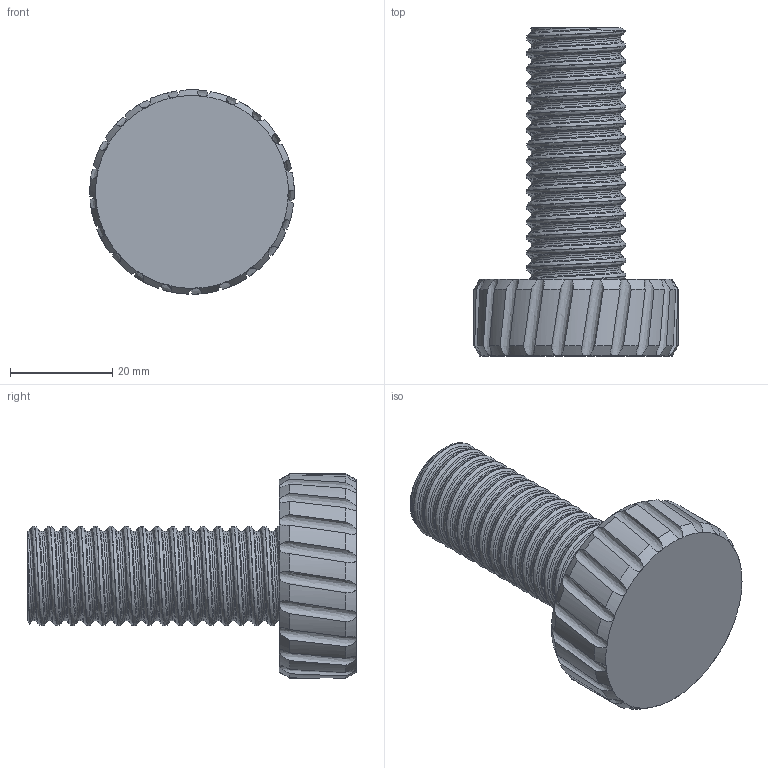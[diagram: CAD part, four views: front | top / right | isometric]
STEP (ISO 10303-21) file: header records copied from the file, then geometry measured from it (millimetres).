
FILE_DESCRIPTION(/* description */ ('Enter Title Here'),/* implementation_level */ '2;1');
FILE_NAME(/* name */ 'Hobby_HeadphoneHolder_Screw_Long.stp',/* time_stamp */ '2025-01-28T11:58:52Z',/* author */ ('kwzf494'),/* organization */ ('AstraZeneca'),/* preprocessor_version */ 'ST-DEVELOPER v20',/* originating_system */ 'Autodesk Inventor 2025',/* authorisation */ 'Bryan Windus-Smith');
FILE_SCHEMA (('AUTOMOTIVE_DESIGN { 1 0 10303 214 3 1 1 }'));
Length unit declared in the file: millimetre
Products named in the file (1): Hobby_HeadphoneHolder_Screw_Long
Bounding box: 39.99 x 64.2 x 40 mm (x, y, z)
Volume: 31145.6 mm3; surface area: 8157 mm2
Topology: 1 solids, 1 shells, 128 faces, 415 edges, 290 vertices
Faces by surface type: cylinder 55, cone 43, bspline 27, plane 3
Full cylindrical faces by diameter (mm): 17.58 x15, 19.5 x15
Entity records: 14201 total; most frequent: CARTESIAN_POINT 11053, ORIENTED_EDGE 830, EDGE_CURVE 415, DIRECTION 414, B_SPLINE_CURVE_WITH_KNOTS 294, VERTEX_POINT 290, AXIS2_PLACEMENT_3D 191, EDGE_LOOP 129
